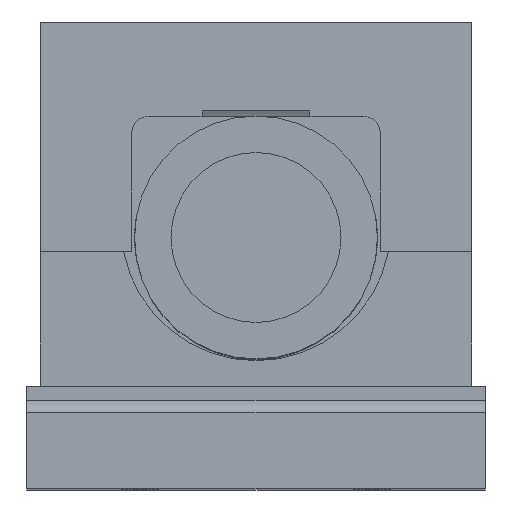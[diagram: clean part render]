
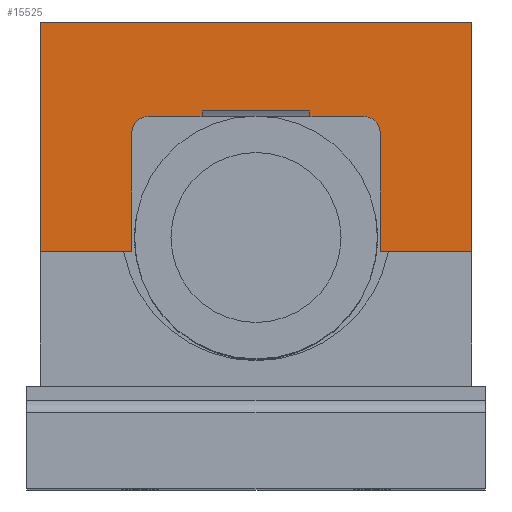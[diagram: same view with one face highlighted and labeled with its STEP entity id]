
A CAD part, top view. The second image highlights one B-rep face of the part: STEP entity #15525.
In plain terms, the highlighted planar face has unit normal (0, 0, 1).
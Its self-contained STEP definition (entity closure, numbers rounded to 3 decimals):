
#21 = DIRECTION ( 'NONE',  ( -1., 0., 0. ) ) ;
#171 = EDGE_CURVE ( 'NONE', #2151, #3541, #9673, .T. ) ;
#392 = VECTOR ( 'NONE', #14450, 1000. ) ;
#407 = CARTESIAN_POINT ( 'NONE',  ( -46., -6., 20. ) ) ;
#409 = CIRCLE ( 'NONE', #669, 6. ) ;
#669 = AXIS2_PLACEMENT_3D ( 'NONE', #7196, #9912, #8474 ) ;
#829 = CARTESIAN_POINT ( 'NONE',  ( -80., 35., 20. ) ) ;
#830 = DIRECTION ( 'NONE',  ( 0., 1., 0. ) ) ;
#861 = LINE ( 'NONE', #4342, #15098 ) ;
#867 = CARTESIAN_POINT ( 'NONE',  ( 20., 0., 20. ) ) ;
#927 = EDGE_CURVE ( 'NONE', #12961, #2151, #409, .T. ) ;
#1072 = CARTESIAN_POINT ( 'NONE',  ( 0., 0., 20. ) ) ;
#1274 = CARTESIAN_POINT ( 'NONE',  ( -80., -50., 20. ) ) ;
#1374 = VECTOR ( 'NONE', #12948, 1000. ) ;
#1522 = CARTESIAN_POINT ( 'NONE',  ( -80., 35., 20. ) ) ;
#1523 = EDGE_CURVE ( 'NONE', #13184, #5341, #9401, .T. ) ;
#1731 = DIRECTION ( 'NONE',  ( 0., 1., 0. ) ) ;
#1943 = LINE ( 'NONE', #829, #7581 ) ;
#2110 = VECTOR ( 'NONE', #830, 1000. ) ;
#2151 = VERTEX_POINT ( 'NONE', #11005 ) ;
#2216 = ORIENTED_EDGE ( 'NONE', *, *, #2676, .T. ) ;
#2415 = ORIENTED_EDGE ( 'NONE', *, *, #171, .T. ) ;
#2475 = ORIENTED_EDGE ( 'NONE', *, *, #927, .T. ) ;
#2486 = EDGE_CURVE ( 'NONE', #5775, #3541, #861, .T. ) ;
#2641 = EDGE_CURVE ( 'NONE', #8987, #5775, #8571, .T. ) ;
#2676 = EDGE_CURVE ( 'NONE', #7804, #15691, #14308, .T. ) ;
#2687 = ORIENTED_EDGE ( 'NONE', *, *, #13668, .T. ) ;
#3030 = ORIENTED_EDGE ( 'NONE', *, *, #12863, .T. ) ;
#3081 = CARTESIAN_POINT ( 'NONE',  ( 46., 0., 20. ) ) ;
#3249 = LINE ( 'NONE', #3081, #1374 ) ;
#3351 = VECTOR ( 'NONE', #3832, 1000. ) ;
#3377 = PLANE ( 'NONE',  #6910 ) ;
#3541 = VERTEX_POINT ( 'NONE', #15626 ) ;
#3832 = DIRECTION ( 'NONE',  ( 0., -1., 0. ) ) ;
#4281 = CARTESIAN_POINT ( 'NONE',  ( 40., -6., 20. ) ) ;
#4305 = ORIENTED_EDGE ( 'NONE', *, *, #2486, .F. ) ;
#4342 = CARTESIAN_POINT ( 'NONE',  ( -20., -0.98, 20. ) ) ;
#4410 = CARTESIAN_POINT ( 'NONE',  ( 20., 2.02, 20. ) ) ;
#4764 = LINE ( 'NONE', #1274, #12284 ) ;
#5034 = LINE ( 'NONE', #9740, #3351 ) ;
#5170 = CARTESIAN_POINT ( 'NONE',  ( 80., -50., 20. ) ) ;
#5341 = VERTEX_POINT ( 'NONE', #14059 ) ;
#5403 = DIRECTION ( 'NONE',  ( -1., 0., 0. ) ) ;
#5468 = DIRECTION ( 'NONE',  ( 0., -1., 0. ) ) ;
#5549 = ORIENTED_EDGE ( 'NONE', *, *, #8472, .T. ) ;
#5714 = ORIENTED_EDGE ( 'NONE', *, *, #8315, .T. ) ;
#5775 = VERTEX_POINT ( 'NONE', #9844 ) ;
#6079 = DIRECTION ( 'NONE',  ( 0., 0., -1. ) ) ;
#6300 = VERTEX_POINT ( 'NONE', #8975 ) ;
#6367 = EDGE_CURVE ( 'NONE', #15691, #12961, #13674, .T. ) ;
#6799 = EDGE_CURVE ( 'NONE', #10476, #13172, #1943, .T. ) ;
#6910 = AXIS2_PLACEMENT_3D ( 'NONE', #1072, #6079, #21 ) ;
#7026 = LINE ( 'NONE', #11896, #2110 ) ;
#7196 = CARTESIAN_POINT ( 'NONE',  ( -40., -6., 20. ) ) ;
#7246 = CARTESIAN_POINT ( 'NONE',  ( 46., -6., 20. ) ) ;
#7464 = VECTOR ( 'NONE', #11999, 1000. ) ;
#7581 = VECTOR ( 'NONE', #10626, 1000. ) ;
#7772 = CARTESIAN_POINT ( 'NONE',  ( -46., 0., 20. ) ) ;
#7804 = VERTEX_POINT ( 'NONE', #12332 ) ;
#7975 = ORIENTED_EDGE ( 'NONE', *, *, #6799, .T. ) ;
#8033 = DIRECTION ( 'NONE',  ( 0., 0., -1. ) ) ;
#8259 = CARTESIAN_POINT ( 'NONE',  ( -80., -50., 20. ) ) ;
#8315 = EDGE_CURVE ( 'NONE', #5341, #6300, #11232, .T. ) ;
#8361 = VERTEX_POINT ( 'NONE', #867 ) ;
#8472 = EDGE_CURVE ( 'NONE', #8361, #13286, #3249, .T. ) ;
#8474 = DIRECTION ( 'NONE',  ( -1., 0., 0. ) ) ;
#8496 = DIRECTION ( 'NONE',  ( 1., 0., 0. ) ) ;
#8571 = LINE ( 'NONE', #9699, #7464 ) ;
#8975 = CARTESIAN_POINT ( 'NONE',  ( 80., -50., 20. ) ) ;
#8987 = VERTEX_POINT ( 'NONE', #4410 ) ;
#9401 = LINE ( 'NONE', #11713, #11012 ) ;
#9484 = CIRCLE ( 'NONE', #14586, 6. ) ;
#9502 = VECTOR ( 'NONE', #8496, 1000. ) ;
#9673 = LINE ( 'NONE', #13404, #392 ) ;
#9699 = CARTESIAN_POINT ( 'NONE',  ( 20., 2.02, 20. ) ) ;
#9740 = CARTESIAN_POINT ( 'NONE',  ( 20., -0.98, 20. ) ) ;
#9804 = VECTOR ( 'NONE', #13846, 1000. ) ;
#9829 = CARTESIAN_POINT ( 'NONE',  ( -46., -50., 20. ) ) ;
#9844 = CARTESIAN_POINT ( 'NONE',  ( -20., 2.02, 20. ) ) ;
#9912 = DIRECTION ( 'NONE',  ( 0., 0., -1. ) ) ;
#10476 = VERTEX_POINT ( 'NONE', #11187 ) ;
#10626 = DIRECTION ( 'NONE',  ( -1., 0., 0. ) ) ;
#10869 = FACE_OUTER_BOUND ( 'NONE', #15707, .T. ) ;
#11005 = CARTESIAN_POINT ( 'NONE',  ( -40., 0., 20. ) ) ;
#11012 = VECTOR ( 'NONE', #12718, 1000. ) ;
#11187 = CARTESIAN_POINT ( 'NONE',  ( 80., 35., 20. ) ) ;
#11232 = LINE ( 'NONE', #5170, #9804 ) ;
#11713 = CARTESIAN_POINT ( 'NONE',  ( 46., -50., 20. ) ) ;
#11896 = CARTESIAN_POINT ( 'NONE',  ( 80., 35., 20. ) ) ;
#11999 = DIRECTION ( 'NONE',  ( -1., 0., 0. ) ) ;
#12284 = VECTOR ( 'NONE', #13284, 1000. ) ;
#12332 = CARTESIAN_POINT ( 'NONE',  ( -80., -50., 20. ) ) ;
#12365 = ORIENTED_EDGE ( 'NONE', *, *, #1523, .T. ) ;
#12636 = VECTOR ( 'NONE', #1731, 1000. ) ;
#12649 = ORIENTED_EDGE ( 'NONE', *, *, #14653, .T. ) ;
#12718 = DIRECTION ( 'NONE',  ( 0., -1., 0. ) ) ;
#12863 = EDGE_CURVE ( 'NONE', #8987, #8361, #5034, .T. ) ;
#12948 = DIRECTION ( 'NONE',  ( 1., 0., 0. ) ) ;
#12961 = VERTEX_POINT ( 'NONE', #407 ) ;
#13172 = VERTEX_POINT ( 'NONE', #1522 ) ;
#13184 = VERTEX_POINT ( 'NONE', #7246 ) ;
#13284 = DIRECTION ( 'NONE',  ( 0., -1., 0. ) ) ;
#13286 = VERTEX_POINT ( 'NONE', #14667 ) ;
#13404 = CARTESIAN_POINT ( 'NONE',  ( 46., 0., 20. ) ) ;
#13668 = EDGE_CURVE ( 'NONE', #13286, #13184, #9484, .T. ) ;
#13674 = LINE ( 'NONE', #7772, #12636 ) ;
#13846 = DIRECTION ( 'NONE',  ( 1., 0., 0. ) ) ;
#13902 = EDGE_CURVE ( 'NONE', #13172, #7804, #4764, .T. ) ;
#14059 = CARTESIAN_POINT ( 'NONE',  ( 46., -50., 20. ) ) ;
#14308 = LINE ( 'NONE', #8259, #9502 ) ;
#14450 = DIRECTION ( 'NONE',  ( 1., 0., 0. ) ) ;
#14586 = AXIS2_PLACEMENT_3D ( 'NONE', #4281, #8033, #5403 ) ;
#14653 = EDGE_CURVE ( 'NONE', #6300, #10476, #7026, .T. ) ;
#14667 = CARTESIAN_POINT ( 'NONE',  ( 40., 0., 20. ) ) ;
#15005 = ORIENTED_EDGE ( 'NONE', *, *, #2641, .F. ) ;
#15098 = VECTOR ( 'NONE', #5468, 1000. ) ;
#15099 = ORIENTED_EDGE ( 'NONE', *, *, #13902, .T. ) ;
#15445 = ORIENTED_EDGE ( 'NONE', *, *, #6367, .T. ) ;
#15525 = ADVANCED_FACE ( 'NONE', ( #10869 ), #3377, .F. ) ;
#15626 = CARTESIAN_POINT ( 'NONE',  ( -20., 0., 20. ) ) ;
#15691 = VERTEX_POINT ( 'NONE', #9829 ) ;
#15707 = EDGE_LOOP ( 'NONE', ( #15005, #3030, #5549, #2687, #12365, #5714, #12649, #7975, #15099, #2216, #15445, #2475, #2415, #4305 ) ) ;
